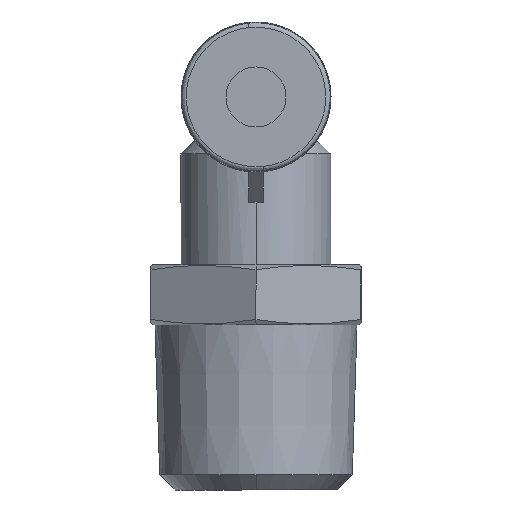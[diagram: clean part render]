
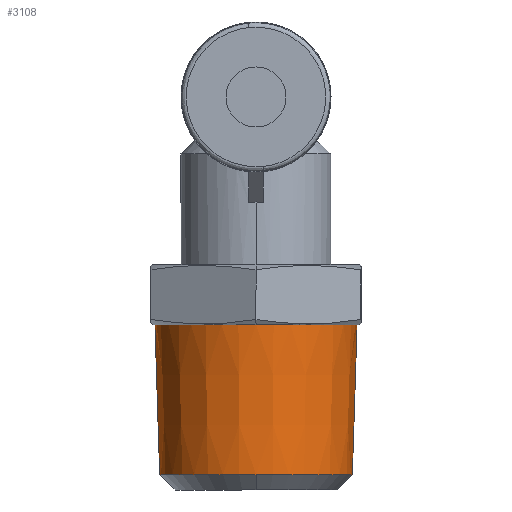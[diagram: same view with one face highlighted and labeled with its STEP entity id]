
A CAD part, left-side view. The second image highlights one B-rep face of the part: STEP entity #3108.
In plain terms, the highlighted conical face has half-angle 1.79 degrees and reference radius 6.734 mm.
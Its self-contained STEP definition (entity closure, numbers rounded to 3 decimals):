
#1 = AXIS2_PLACEMENT_3D ( 'NONE', #2599, #2590, #2579 ) ;
#129 = ORIENTED_EDGE ( 'NONE', *, *, #2475, .F. ) ;
#157 = VERTEX_POINT ( 'NONE', #853 ) ;
#248 = VERTEX_POINT ( 'NONE', #1166 ) ;
#299 = CIRCLE ( 'NONE', #316, 6.734 ) ;
#304 = FACE_OUTER_BOUND ( 'NONE', #1839, .T. ) ;
#316 = AXIS2_PLACEMENT_3D ( 'NONE', #2962, #2968, #3154 ) ;
#352 = VERTEX_POINT ( 'NONE', #1522 ) ;
#384 = AXIS2_PLACEMENT_3D ( 'NONE', #1105, #1099, #1091 ) ;
#452 = AXIS2_PLACEMENT_3D ( 'NONE', #2596, #2638, #2698 ) ;
#527 = DIRECTION ( 'NONE',  ( 0., 0., 1. ) ) ;
#552 = CARTESIAN_POINT ( 'NONE',  ( -6.423, 0., 1.023 ) ) ;
#853 = CARTESIAN_POINT ( 'NONE',  ( 0., -6.734, 11. ) ) ;
#946 = CONICAL_SURFACE ( 'NONE', #1617, 6.734, 0.031 ) ;
#1091 = DIRECTION ( 'NONE',  ( -0.998, 0.068, 0. ) ) ;
#1099 = DIRECTION ( 'NONE',  ( 0., 0., 1. ) ) ;
#1105 = CARTESIAN_POINT ( 'NONE',  ( 0., 0., 11. ) ) ;
#1166 = CARTESIAN_POINT ( 'NONE',  ( 0., 6.734, 11. ) ) ;
#1490 = DIRECTION ( 'NONE',  ( 0., -1., 0. ) ) ;
#1513 = EDGE_CURVE ( 'NONE', #352, #1725, #2938, .T. ) ;
#1522 = CARTESIAN_POINT ( 'NONE',  ( 0., 6.423, 1.023 ) ) ;
#1617 = AXIS2_PLACEMENT_3D ( 'NONE', #1832, #527, #1490 ) ;
#1657 = CARTESIAN_POINT ( 'NONE',  ( 0., -6.423, 1.023 ) ) ;
#1660 = EDGE_CURVE ( 'NONE', #2356, #157, #2208, .T. ) ;
#1719 = VECTOR ( 'NONE', #3161, 1000. ) ;
#1725 = VERTEX_POINT ( 'NONE', #552 ) ;
#1763 = LINE ( 'NONE', #2876, #3256 ) ;
#1822 = LINE ( 'NONE', #3202, #1719 ) ;
#1832 = CARTESIAN_POINT ( 'NONE',  ( 0., 0., 11. ) ) ;
#1839 = EDGE_LOOP ( 'NONE', ( #3222, #2459, #2415, #2383, #2332, #129 ) ) ;
#2003 = VERTEX_POINT ( 'NONE', #1657 ) ;
#2181 = EDGE_CURVE ( 'NONE', #1725, #2003, #3266, .T. ) ;
#2208 = CIRCLE ( 'NONE', #384, 6.734 ) ;
#2332 = ORIENTED_EDGE ( 'NONE', *, *, #1660, .F. ) ;
#2356 = VERTEX_POINT ( 'NONE', #2980 ) ;
#2383 = ORIENTED_EDGE ( 'NONE', *, *, #2627, .T. ) ;
#2415 = ORIENTED_EDGE ( 'NONE', *, *, #2181, .T. ) ;
#2459 = ORIENTED_EDGE ( 'NONE', *, *, #1513, .T. ) ;
#2475 = EDGE_CURVE ( 'NONE', #248, #2356, #299, .T. ) ;
#2579 = DIRECTION ( 'NONE',  ( -0.997, 0.082, 0. ) ) ;
#2590 = DIRECTION ( 'NONE',  ( 0., 0., 1. ) ) ;
#2596 = CARTESIAN_POINT ( 'NONE',  ( 0., 0., 1.023 ) ) ;
#2599 = CARTESIAN_POINT ( 'NONE',  ( 0., 0., 1.023 ) ) ;
#2627 = EDGE_CURVE ( 'NONE', #2003, #157, #1822, .T. ) ;
#2634 = EDGE_CURVE ( 'NONE', #352, #248, #1763, .T. ) ;
#2638 = DIRECTION ( 'NONE',  ( 0., 0., 1. ) ) ;
#2698 = DIRECTION ( 'NONE',  ( 1., 0., 0. ) ) ;
#2876 = CARTESIAN_POINT ( 'NONE',  ( 0., 6.734, 11. ) ) ;
#2938 = CIRCLE ( 'NONE', #452, 6.423 ) ;
#2962 = CARTESIAN_POINT ( 'NONE',  ( 0., 0., 11. ) ) ;
#2968 = DIRECTION ( 'NONE',  ( 0., 0., 1. ) ) ;
#2980 = CARTESIAN_POINT ( 'NONE',  ( -6.734, 0., 11. ) ) ;
#3047 = DIRECTION ( 'NONE',  ( 0., 0.031, 1. ) ) ;
#3108 = ADVANCED_FACE ( '85', ( #304 ), #946, .T. ) ;
#3154 = DIRECTION ( 'NONE',  ( 1., 0., 0. ) ) ;
#3161 = DIRECTION ( 'NONE',  ( 0., -0.031, 1. ) ) ;
#3202 = CARTESIAN_POINT ( 'NONE',  ( 0., -6.734, 11. ) ) ;
#3222 = ORIENTED_EDGE ( 'NONE', *, *, #2634, .F. ) ;
#3256 = VECTOR ( 'NONE', #3047, 1000. ) ;
#3266 = CIRCLE ( 'NONE', #1, 6.423 ) ;
